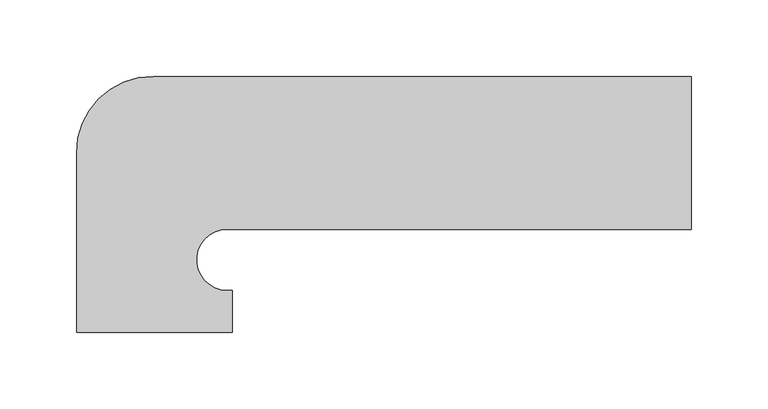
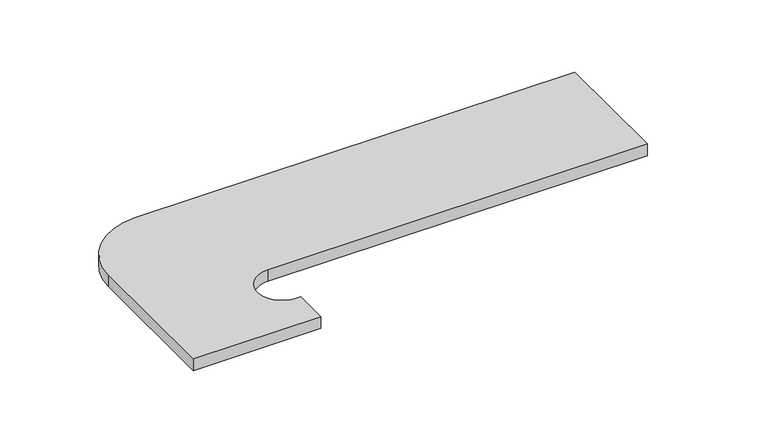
"""IFC4 building model written with IfcOpenShell, lengths in millimetres: proxy geometry, EXAGRES - Zanquin ML 39.5x17.5 : Exagres_Orobico_Gris_Zanquin_ML_Izq."""

from ifc_helpers import new_model, si_unit, point, frame_2d, origin, origin_with_axes, place, context, project, spatial, polyline, circle_curve, trimmed, segment, composite_curve, outline, extrude, source, transform, mapped, element, save


def generic_models_0db20ba5(model_context):
    return source(origin(), model_context, "Body", "SweptSolid", [
        extrude(outline(composite_curve([segment(polyline([(303.5, 0.0), (0.0, 0.0)]), True, "CONTINUOUS"), segment(trimmed(circle_curve(frame_2d((0.0, -20.0)), 20.0), [point((0.0, 0.0))], [point((0.0, -40.0))], True, "CARTESIAN"), True, "CONTINUOUS"), segment(polyline([(0.0, -40.0), (3.5, -40.0), (3.5, -67.37), (-98.4135674, -67.37), (-98.4135674, 50.0)]), True, "CONTINUOUS"), segment(trimmed(circle_curve(frame_2d((-48.4135674, 50.0)), 50.0), [point((-98.4135674, 50.0))], [point((-48.4135674, 100.0))], False, "CARTESIAN"), True, "CONTINUOUS"), segment(polyline([(-48.4135674, 100.0), (303.5, 100.0), (303.5, 0.0)]), True, "CONTINUOUS")], self_intersect=False)), origin_with_axes(), (0.0, 0.0, 1.0), 10.0),
    ])


if __name__ == "__main__":
    model = new_model("IFC4")
    model_context = context("Model", 3, world=origin())
    ifc_project = project(units=[si_unit("LENGTHUNIT", "METRE", prefix="MILLI")], contexts=[model_context])
    site = spatial("IfcSite", under=ifc_project)
    building = spatial("IfcBuilding", under=site)
    placement = place(None, origin())
    generic_models_shape = generic_models_0db20ba5(model_context)
    element("IfcBuildingElementProxy", 1, Name="EXAGRES - Zanquin ML 39.5x17.5 : Exagres_Orobico_Gris_Zanquin_ML_Izq", ObjectType="EXAGRES - Zanquin ML 39.5x17.5 : Exagres_Orobico_Gris_Zanquin_ML_Izq", at=placement, inside=building, context=model_context, shape_type="MappedRepresentation", body=[
        mapped(generic_models_shape, transform((0.0, 0.0, 0.0), x_axis=(1.0, 0.0, 0.0), y_axis=(0.0, 1.0, 0.0), z_axis=(0.0, 0.0, 1.0))),
    ])
    save(model, "model.ifc")
